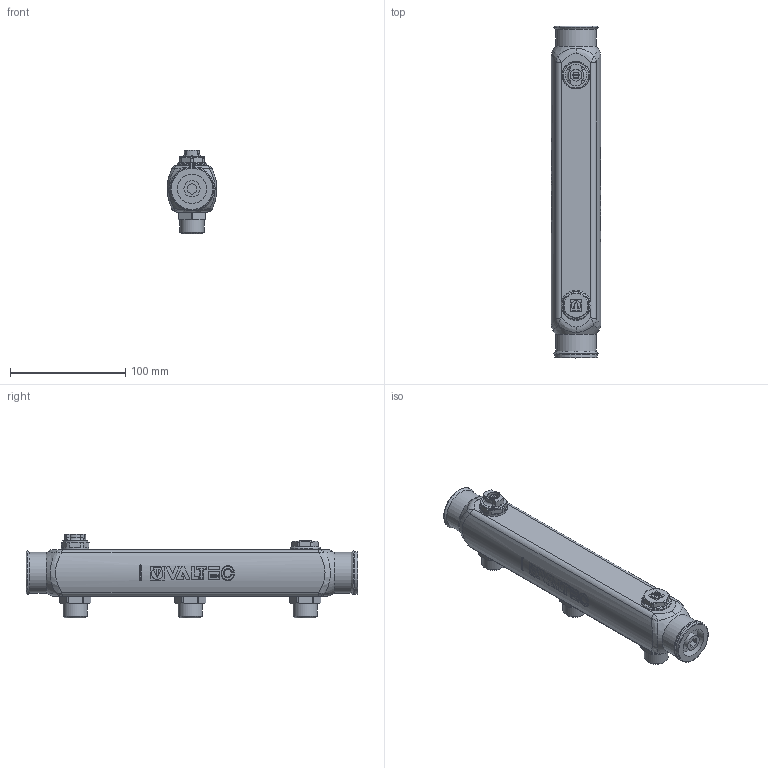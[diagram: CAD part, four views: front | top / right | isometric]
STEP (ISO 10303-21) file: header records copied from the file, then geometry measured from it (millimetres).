
FILE_DESCRIPTION(('STEP AP203'), '1');
FILE_NAME('覆.622621.023.000 捘 - VTc.510.SS.060403', '2024-08-21T10:51:12', ('Boss'), (''), 'C3D Converter', 'C3D Toolkit', '');
FILE_SCHEMA(('CONFIG_CONTROL_DESIGN'));
Length unit declared in the file: millimetre
Products named in the file (1): ВР.622621.023.000 СБ
Bounding box: 43 x 288.5 x 73 mm (x, y, z)
Volume: 99614.1 mm3; surface area: 91920 mm2
Topology: 1 solids, 4 shells, 878 faces, 2261 edges, 1458 vertices
Faces by surface type: plane 358, extrusion 230, cylinder 146, cone 83, bspline 52, torus 9
Full cylindrical faces by diameter (mm): 1 x1, 5 x1, 5.3 x1, 10.2 x1, 12 x3, 13 x1, 14 x1, 20.955 x7, 22 x6, 24 x1, 25.5 x1, 26 x1, 28 x1, 30.292 x2, 35.5 x2, 37 x1
Entity records: 51735 total; most frequent: CARTESIAN_POINT 32144, ORIENTED_EDGE 4356, DIRECTION 3225, EDGE_CURVE 2178, VERTEX_POINT 1455, VECTOR 1185, EDGE_LOOP 1025, AXIS2_PLACEMENT_3D 1020
